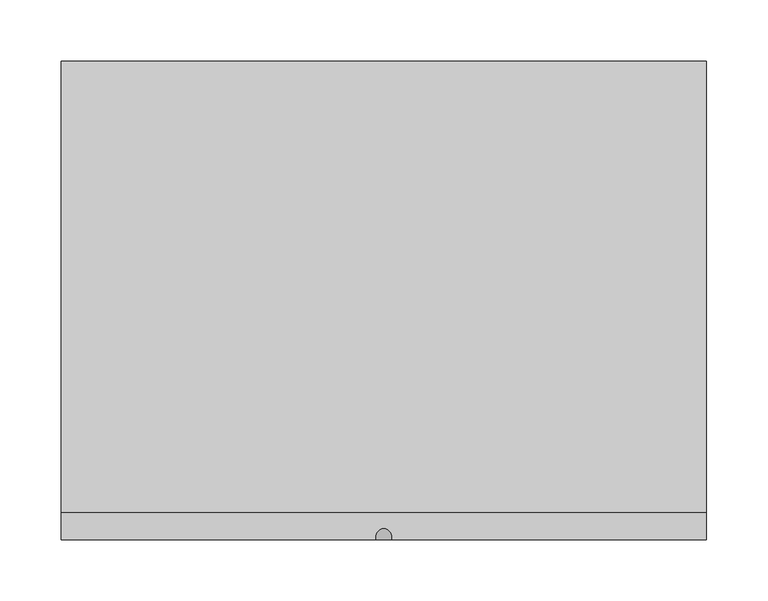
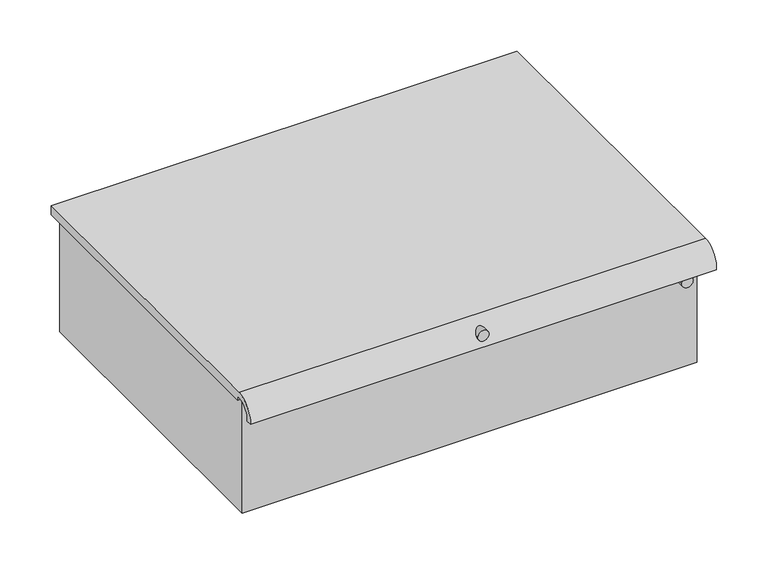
"""IFC4 building model written with IfcOpenShell, lengths in millimetres: furniture geometry."""

from ifc_helpers import new_model, si_unit, point, frame, frame_2d, origin, place, context, project, spatial, polyline, circle_curve, trimmed, segment, composite_curve, outline, extrude, source, transform, mapped, element, save
from ifc_brep_helpers import plane_surface, cylinder_surface, revolved_surface, advanced_brep


def furniture_4518f5ca(model_context):
    return source(origin(), model_context, "Body", "SolidModel", [
        extrude(outline(composite_curve([segment(trimmed(circle_curve(frame_2d((1506.5248, 231.9974999)), 6.35), [point((1506.5248, 238.3474999))], [point((1506.5248, 225.6474999))], False, "CARTESIAN"), True, "CONTINUOUS"), segment(trimmed(circle_curve(frame_2d((1506.5248, 231.9974999)), 6.35), [point((1506.5248, 225.6474999))], [point((1506.5248, 238.3474999))], False, "CARTESIAN"), True, "CONTINUOUS")], self_intersect=False)), frame((0.0, -182.5625, 0.0), z_axis=(0.0, 1.0, 0.0), x_axis=(0.0, 0.0, 1.0)), (0.0, 0.0, 1.0), 14.3002),
        extrude(outline(composite_curve([segment(trimmed(circle_curve(frame_2d((1533.525, -6.1275001)), 6.35), [point((1533.525, 0.2224999))], [point((1533.525, -12.4775001))], False, "CARTESIAN"), True, "CONTINUOUS"), segment(trimmed(circle_curve(frame_2d((1533.525, -6.1275001)), 6.35), [point((1533.525, -12.4775001))], [point((1533.525, 0.2224999))], False, "CARTESIAN"), True, "CONTINUOUS")], self_intersect=False)), frame((0.0, -195.2625, 0.0), z_axis=(0.0, 1.0, 0.0), x_axis=(0.0, 0.0, 1.0)), (0.0, 0.0, 1.0), 27.0002),
        advanced_brep(
        [(-263.3025001, -168.2623, 1395.3998), (251.0474999, -168.2623, 1395.3998), (251.0474999, -168.2623, 1533.525), (-263.3025001, -168.2623, 1533.525), (251.0474999, 188.9125, 1395.3998), (-263.3025001, 188.9125, 1395.3998), (-263.3025001, 188.9125, 1533.525), (251.0474999, 188.9125, 1533.525), (257.3974999, -173.1367188, 1544.6248), (257.3974999, 195.2625, 1544.6248), (-269.6525001, 195.2625, 1544.6248), (-269.6525001, -173.1367188, 1544.6248), (257.3974999, -195.2625, 1519.98172), (257.3974999, -188.8606628, 1519.98172), (257.3974999, -173.1367188, 1538.2748), (257.3974999, -169.8625, 1538.2748), (257.3974999, -169.8625, 1533.525), (257.3974999, 195.2625, 1533.525), (-269.6525001, 195.2625, 1533.525), (-269.6525001, -169.8625, 1533.525), (-269.6525001, -169.8625, 1538.2748), (-269.6525001, -173.1367188, 1538.2748), (-269.6525001, -188.8606628, 1519.98172), (-269.6525001, -195.2625, 1519.98172)],
        [
            (0, 1),
            (1, 2),
            (2, 3),
            (3, 0),
            (4, 5),
            (5, 6),
            (6, 7),
            (7, 4),
            (0, 5),
            (4, 1),
            (7, 2),
            (8, 9),
            (9, 10),
            (10, 11),
            (11, 8),
            (3, 6),
            (8, 12, circle_curve(frame((257.3974999, -173.1367188, 1522.3704473), z_axis=(1.0, 0.0, 0.0), x_axis=(0.0, 1.0, 0.0)), 22.2543527)),
            (12, 13),
            (13, 14, circle_curve(frame((257.3974999, -173.1367188, 1522.3704473), z_axis=(-1.0, 0.0, 0.0), x_axis=(0.0, 1.0, 0.0)), 15.9043527)),
            (14, 15),
            (15, 16),
            (16, 17),
            (17, 9),
            (10, 18),
            (18, 19),
            (19, 20),
            (20, 21),
            (21, 22, circle_curve(frame((-269.6525001, -173.1367188, 1522.3704473), z_axis=(1.0, 0.0, 0.0), x_axis=(0.0, 1.0, 0.0)), 15.9043527)),
            (22, 23),
            (23, 11, circle_curve(frame((-269.6525001, -173.1367188, 1522.3704473), z_axis=(-1.0, 0.0, 0.0), x_axis=(0.0, 1.0, 0.0)), 22.2543527)),
            (23, 12),
            (22, 13),
            (21, 14),
            (20, 15),
            (19, 16),
            (18, 17),
        ],
        [
            plane_surface(frame((251.0474999, -168.2623, 1395.3998), z_axis=(0.0, -1.0, 0.0), x_axis=(1.0, 0.0, 0.0))),
            plane_surface(frame((251.0474999, 188.9125, 1395.3998), z_axis=(0.0, 1.0, 0.0), x_axis=(-1.0, 0.0, 0.0))),
            plane_surface(frame((-263.3025001, -168.2623, 1395.3998), z_axis=(0.0, 0.0, -1.0), x_axis=(0.0, 1.0, 0.0))),
            plane_surface(frame((251.0474999, -168.2623, 1395.3998), z_axis=(1.0, 0.0, 0.0), x_axis=(0.0, 1.0, 0.0))),
            plane_surface(frame((251.0474999, -168.2623, 1544.6248), z_axis=(0.0, 0.0, 1.0), x_axis=(0.0, 1.0, 0.0))),
            plane_surface(frame((-263.3025001, -168.2623, 1544.6248), z_axis=(-1.0, 0.0, 0.0), x_axis=(0.0, 1.0, 0.0))),
            plane_surface(frame((257.3974999, 195.2625, 1544.6248), z_axis=(1.0, 0.0, 0.0), x_axis=(0.0, -1.0, 0.0))),
            plane_surface(frame((-269.6525001, 195.2625, 1544.6248), z_axis=(-1.0, 0.0, 0.0), x_axis=(0.0, 1.0, 0.0))),
            cylinder_surface(frame((-269.6525001, -173.1367188, 1522.3704473), z_axis=(1.0, 0.0, 0.0), x_axis=(0.0, 1.0, 0.0)), 22.2543527),
            plane_surface(frame((257.3974999, -195.2625, 1519.98172), z_axis=(0.0, 0.0, -1.0), x_axis=(-1.0, 0.0, 0.0))),
            revolved_surface(polyline([(-269.6525001, -157.2323661, 1522.3704473), (257.39749989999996, -157.2323661, 1522.3704473)]), (-269.6525001, -173.1367188, 1522.3704473), (-1.0, 0.0, 0.0)),
            plane_surface(frame((257.3974999, -173.1367188, 1538.2748), z_axis=(0.0, 0.0, -1.0), x_axis=(-1.0, 0.0, 0.0))),
            plane_surface(frame((257.3974999, -169.8625, 1538.2748), z_axis=(0.0, -1.0, 0.0), x_axis=(-1.0, 0.0, 0.0))),
            plane_surface(frame((257.3974999, -169.8625, 1533.525), z_axis=(0.0, 0.0, -1.0), x_axis=(-1.0, 0.0, 0.0))),
            plane_surface(frame((257.3974999, 195.2625, 1533.525), z_axis=(0.0, 1.0, 0.0), x_axis=(-1.0, 0.0, 0.0))),
        ],
        [
            (0, [[1, 2, 3, 4]]),
            (1, [[5, 6, 7, 8]]),
            (2, [[-1, 9, -5, 10]]),
            (3, [[-10, -8, 11, -2]]),
            (4, [[12, 13, 14, 15]]),
            (5, [[-9, -4, 16, -6]]),
            (6, [[-12, 17, 18, 19, 20, 21, 22, 23]]),
            (7, [[24, 25, 26, 27, 28, 29, 30, -14]]),
            (8, [[-17, -15, -30, 31]]),
            (9, [[-18, -31, -29, 32]]),
            (10, [[-19, -32, -28, 33]]),
            (11, [[-20, -33, -27, 34]]),
            (12, [[-21, -34, -26, 35]]),
            (13, [[-22, -35, -25, 36], [-3, -11, -7, -16]]),
            (14, [[-23, -36, -24, -13]]),
        ],
    ),
    ])


if __name__ == "__main__":
    model = new_model("IFC4")
    model_context = context("Model", 3, world=origin())
    ifc_project = project(units=[si_unit("LENGTHUNIT", "METRE", prefix="MILLI")], contexts=[model_context])
    site = spatial("IfcSite", under=ifc_project)
    building = spatial("IfcBuilding", under=site)
    placement = place(None, origin())
    furniture_shape = furniture_4518f5ca(model_context)
    element("IfcFurniture", 1, ObjectType="HermanMiller_CoStruc_CO371_LockedDrawerWithLockableLid : B - 6\"H x 15\"D x 20\"W Lid Wlock", at=placement, inside=building, context=model_context, shape_type="MappedRepresentation", body=[
        mapped(furniture_shape, transform((0.0, 0.0, 0.0), x_axis=(1.0, 0.0, 0.0), y_axis=(0.0, 1.0, 0.0), z_axis=(0.0, 0.0, 1.0))),
    ])
    save(model, "model.ifc")
